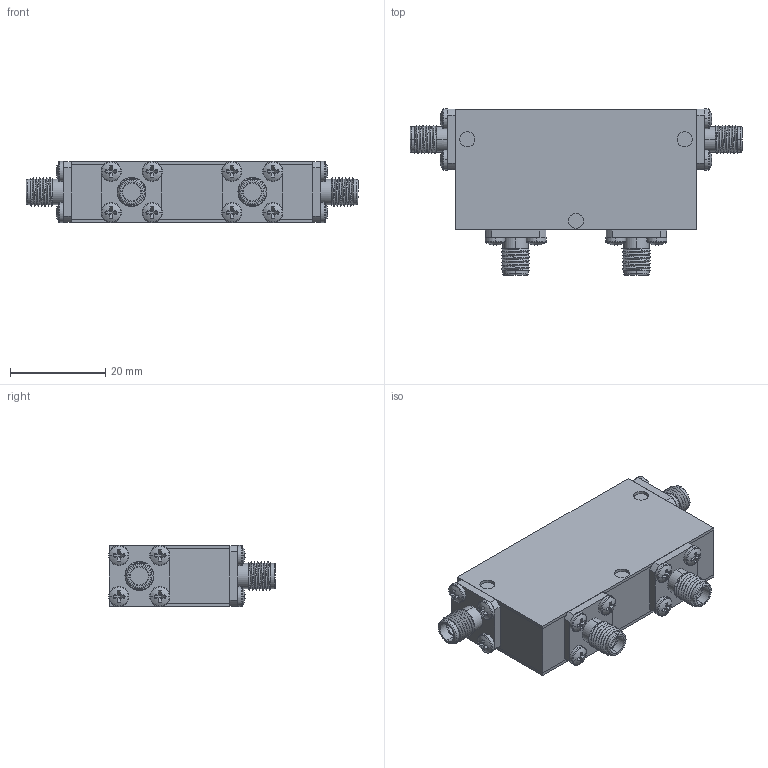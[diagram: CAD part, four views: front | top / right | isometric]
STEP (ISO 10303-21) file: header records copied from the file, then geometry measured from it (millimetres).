
FILE_DESCRIPTION (( 'STEP AP214' ), '1' );
FILE_NAME ('Package 14 Circ FFFF.step', '2021-12-01T20:57:53', ( '' ), ( '' ), 'SwSTEP 2.0', 'SolidWorks 2016', '' );
FILE_SCHEMA (( 'AUTOMOTIVE_DESIGN' ));
Length unit declared in the file: inch
Products named in the file (5): Package Size 14; Package 14; pan cross head_ai_CR-PHMS 0.086-56x0.125x0.125-N; Package 14 Circ FFFF; Delta SMA-Female 0.500 flange Threaded
Assembly tree (22 placements, depth 2):
  Package 14 Circ FFFF
    Package 14
    pan cross head_ai_CR-PHMS 0.086-56x0.125x0.125-N  x16
    Delta SMA-Female 0.500 flange Threaded  x4
    Package Size 14
Bounding box: 69.85 x 35.01 x 12.88 mm (x, y, z)
Volume: 17968.2 mm3; surface area: 14477.1 mm2
Topology: 22 solids, 22 shells, 552 faces, 1252 edges, 772 vertices
Faces by surface type: plane 304, cylinder 164, torus 40, sphere 32, bspline 12
Entity records: 3769 total; most frequent: CARTESIAN_POINT 1210, DIRECTION 537, ORIENTED_EDGE 434, EDGE_CURVE 217, AXIS2_PLACEMENT_3D 216, VERTEX_POINT 139, EDGE_LOOP 116, VECTOR 105
